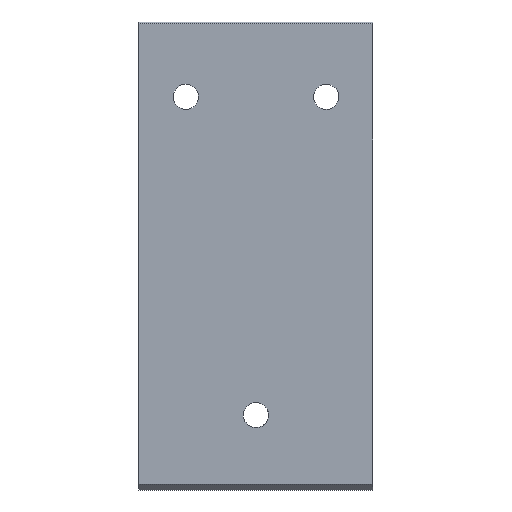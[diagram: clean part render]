
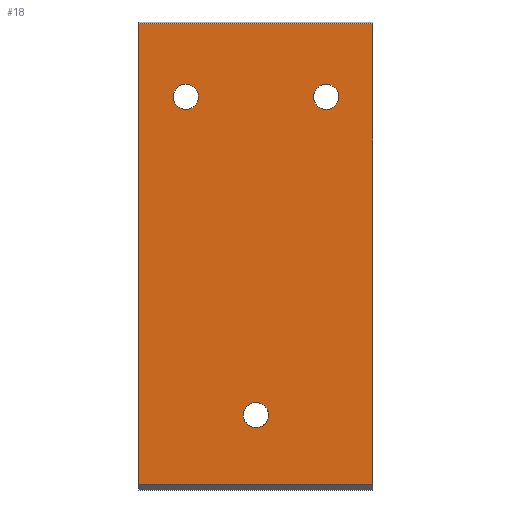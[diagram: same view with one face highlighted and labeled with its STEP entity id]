
A CAD part, left-side view. The second image highlights one B-rep face of the part: STEP entity #18.
In plain terms, the highlighted planar face has unit normal (-1, 0, 0).
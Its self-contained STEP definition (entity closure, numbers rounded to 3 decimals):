
#12 = CARTESIAN_POINT ( 'NONE',  ( 0., -62.5, 126. ) ) ;
#15 = CARTESIAN_POINT ( 'NONE',  ( 0., 3.546, 34.189 ) ) ;
#18 = ADVANCED_FACE ( 'NONE', ( #609, #81, #593, #228 ), #465, .T. ) ;
#22 = DIRECTION ( 'NONE',  ( 0., 0., 1. ) ) ;
#27 = B_SPLINE_CURVE_WITH_KNOTS ( 'NONE', 3,
 ( #450, #159, #147, #15, #28, #77, #89, #94, #107, #111, #114, #116, #151, #164, #167, #176, #179, #182 ),
 .UNSPECIFIED., .F., .F.,
 ( 4, 2, 2, 2, 2, 2, 2, 2, 4 ),
 ( 0., 0.125, 0.25, 0.375, 0.5, 0.625, 0.75, 0.875, 1. ),
 .UNSPECIFIED. ) ;
#28 = CARTESIAN_POINT ( 'NONE',  ( 0., 2.748, 33.772 ) ) ;
#29 = CARTESIAN_POINT ( 'NONE',  ( 0., -5.924, 43.236 ) ) ;
#48 = EDGE_CURVE ( 'NONE', #289, #132, #427, .T. ) ;
#77 = CARTESIAN_POINT ( 'NONE',  ( 0., 1.053, 33.274 ) ) ;
#81 = FACE_BOUND ( 'NONE', #717, .T. ) ;
#84 = EDGE_CURVE ( 'NONE', #553, #238, #571, .T. ) ;
#89 = CARTESIAN_POINT ( 'NONE',  ( 0., 0.156, 33.194 ) ) ;
#94 = CARTESIAN_POINT ( 'NONE',  ( 0., -1.601, 33.383 ) ) ;
#97 = CARTESIAN_POINT ( 'NONE',  ( 0., 5.924, 36.764 ) ) ;
#107 = CARTESIAN_POINT ( 'NONE',  ( 0., -2.461, 33.653 ) ) ;
#110 = VERTEX_POINT ( 'NONE', #672 ) ;
#111 = CARTESIAN_POINT ( 'NONE',  ( 0., -4.012, 34.5 ) ) ;
#114 = CARTESIAN_POINT ( 'NONE',  ( 0., -4.702, 35.078 ) ) ;
#116 = CARTESIAN_POINT ( 'NONE',  ( 0., -5.811, 36.454 ) ) ;
#123 = EDGE_CURVE ( 'NONE', #676, #615, #735, .T. ) ;
#132 = VERTEX_POINT ( 'NONE', #849 ) ;
#135 = CARTESIAN_POINT ( 'NONE',  ( 0., 0., 249. ) ) ;
#147 = CARTESIAN_POINT ( 'NONE',  ( 0., 4.922, 35.298 ) ) ;
#151 = CARTESIAN_POINT ( 'NONE',  ( 0., -6.228, 37.252 ) ) ;
#159 = CARTESIAN_POINT ( 'NONE',  ( 0., 5.5, 35.988 ) ) ;
#164 = CARTESIAN_POINT ( 'NONE',  ( 0., -6.726, 38.947 ) ) ;
#167 = CARTESIAN_POINT ( 'NONE',  ( 0., -6.806, 39.844 ) ) ;
#170 = VERTEX_POINT ( 'NONE', #29 ) ;
#171 = CARTESIAN_POINT ( 'NONE',  ( 0., 37.5, 210. ) ) ;
#176 = CARTESIAN_POINT ( 'NONE',  ( 0., -6.617, 41.601 ) ) ;
#179 = CARTESIAN_POINT ( 'NONE',  ( 0., -6.347, 42.461 ) ) ;
#182 = CARTESIAN_POINT ( 'NONE',  ( 0., -5.924, 43.236 ) ) ;
#196 = EDGE_CURVE ( 'NONE', #238, #553, #330, .T. ) ;
#228 = FACE_BOUND ( 'NONE', #435, .T. ) ;
#238 = VERTEX_POINT ( 'NONE', #385 ) ;
#239 = CARTESIAN_POINT ( 'NONE',  ( 0., -37.5, 210. ) ) ;
#240 = DIRECTION ( 'NONE',  ( -1., 0., 0. ) ) ;
#246 = CARTESIAN_POINT ( 'NONE',  ( 0., -31.576, 206.764 ) ) ;
#257 = CARTESIAN_POINT ( 'NONE',  ( 0., -37.5, 210. ) ) ;
#264 = DIRECTION ( 'NONE',  ( -1., 0., 0. ) ) ;
#267 = DIRECTION ( 'NONE',  ( 0., -1., 0. ) ) ;
#276 = EDGE_CURVE ( 'NONE', #615, #751, #382, .T. ) ;
#282 = DIRECTION ( 'NONE',  ( 0., -1., 0. ) ) ;
#289 = VERTEX_POINT ( 'NONE', #452 ) ;
#304 = ORIENTED_EDGE ( 'NONE', *, *, #123, .F. ) ;
#307 = CARTESIAN_POINT ( 'NONE',  ( 0., 0., 40. ) ) ;
#317 = EDGE_CURVE ( 'NONE', #132, #289, #430, .T. ) ;
#330 = CIRCLE ( 'NONE', #630, 6.75 ) ;
#336 = DIRECTION ( 'NONE',  ( -1., 0., 0. ) ) ;
#340 = ORIENTED_EDGE ( 'NONE', *, *, #317, .F. ) ;
#351 = DIRECTION ( 'NONE',  ( 0., -1., 0. ) ) ;
#354 = EDGE_LOOP ( 'NONE', ( #551, #688 ) ) ;
#372 = AXIS2_PLACEMENT_3D ( 'NONE', #171, #608, #421 ) ;
#382 = LINE ( 'NONE', #518, #627 ) ;
#384 = ORIENTED_EDGE ( 'NONE', *, *, #567, .T. ) ;
#385 = CARTESIAN_POINT ( 'NONE',  ( 0., -43.424, 213.236 ) ) ;
#396 = ORIENTED_EDGE ( 'NONE', *, *, #48, .F. ) ;
#398 = DIRECTION ( 'NONE',  ( -1., 0., 0. ) ) ;
#404 = AXIS2_PLACEMENT_3D ( 'NONE', #533, #398, #433 ) ;
#408 = VECTOR ( 'NONE', #718, 1000. ) ;
#409 = CARTESIAN_POINT ( 'NONE',  ( 0., 62.5, 3. ) ) ;
#417 = VECTOR ( 'NONE', #22, 1000. ) ;
#421 = DIRECTION ( 'NONE',  ( 0., -1., 0. ) ) ;
#427 = CIRCLE ( 'NONE', #372, 6.75 ) ;
#430 = CIRCLE ( 'NONE', #451, 6.75 ) ;
#433 = DIRECTION ( 'NONE',  ( 0., 0., 1. ) ) ;
#434 = CARTESIAN_POINT ( 'NONE',  ( 0., 62.5, 249. ) ) ;
#435 = EDGE_LOOP ( 'NONE', ( #714, #746 ) ) ;
#450 = CARTESIAN_POINT ( 'NONE',  ( 0., 5.924, 36.764 ) ) ;
#451 = AXIS2_PLACEMENT_3D ( 'NONE', #768, #771, #779 ) ;
#452 = CARTESIAN_POINT ( 'NONE',  ( 0., 43.424, 206.764 ) ) ;
#465 = PLANE ( 'NONE',  #404 ) ;
#476 = VERTEX_POINT ( 'NONE', #97 ) ;
#488 = DIRECTION ( 'NONE',  ( 0., 1., 0. ) ) ;
#491 = EDGE_LOOP ( 'NONE', ( #304, #544, #384, #540 ) ) ;
#514 = CIRCLE ( 'NONE', #868, 6.75 ) ;
#518 = CARTESIAN_POINT ( 'NONE',  ( 0., 62.5, 126. ) ) ;
#522 = DIRECTION ( 'NONE',  ( 0., 0., 1. ) ) ;
#533 = CARTESIAN_POINT ( 'NONE',  ( 0., 0., 3. ) ) ;
#540 = ORIENTED_EDGE ( 'NONE', *, *, #276, .F. ) ;
#544 = ORIENTED_EDGE ( 'NONE', *, *, #823, .T. ) ;
#551 = ORIENTED_EDGE ( 'NONE', *, *, #865, .F. ) ;
#553 = VERTEX_POINT ( 'NONE', #246 ) ;
#567 = EDGE_CURVE ( 'NONE', #110, #751, #856, .T. ) ;
#570 = LINE ( 'NONE', #12, #417 ) ;
#571 = CIRCLE ( 'NONE', #678, 6.75 ) ;
#589 = EDGE_CURVE ( 'NONE', #170, #476, #514, .T. ) ;
#593 = FACE_BOUND ( 'NONE', #354, .T. ) ;
#608 = DIRECTION ( 'NONE',  ( -1., 0., 0. ) ) ;
#609 = FACE_OUTER_BOUND ( 'NONE', #491, .T. ) ;
#615 = VERTEX_POINT ( 'NONE', #409 ) ;
#627 = VECTOR ( 'NONE', #522, 1000. ) ;
#630 = AXIS2_PLACEMENT_3D ( 'NONE', #257, #264, #267 ) ;
#661 = CARTESIAN_POINT ( 'NONE',  ( 0., -62.5, 3. ) ) ;
#672 = CARTESIAN_POINT ( 'NONE',  ( 0., -62.5, 249. ) ) ;
#676 = VERTEX_POINT ( 'NONE', #661 ) ;
#678 = AXIS2_PLACEMENT_3D ( 'NONE', #239, #240, #282 ) ;
#688 = ORIENTED_EDGE ( 'NONE', *, *, #589, .F. ) ;
#710 = VECTOR ( 'NONE', #488, 1000. ) ;
#714 = ORIENTED_EDGE ( 'NONE', *, *, #84, .F. ) ;
#717 = EDGE_LOOP ( 'NONE', ( #396, #340 ) ) ;
#718 = DIRECTION ( 'NONE',  ( 0., 1., 0. ) ) ;
#719 = CARTESIAN_POINT ( 'NONE',  ( 0., 0., 3. ) ) ;
#735 = LINE ( 'NONE', #719, #408 ) ;
#746 = ORIENTED_EDGE ( 'NONE', *, *, #196, .F. ) ;
#751 = VERTEX_POINT ( 'NONE', #434 ) ;
#768 = CARTESIAN_POINT ( 'NONE',  ( 0., 37.5, 210. ) ) ;
#771 = DIRECTION ( 'NONE',  ( -1., 0., 0. ) ) ;
#779 = DIRECTION ( 'NONE',  ( 0., -1., 0. ) ) ;
#823 = EDGE_CURVE ( 'NONE', #676, #110, #570, .T. ) ;
#849 = CARTESIAN_POINT ( 'NONE',  ( 0., 31.576, 213.236 ) ) ;
#856 = LINE ( 'NONE', #135, #710 ) ;
#865 = EDGE_CURVE ( 'NONE', #476, #170, #27, .T. ) ;
#868 = AXIS2_PLACEMENT_3D ( 'NONE', #307, #336, #351 ) ;
